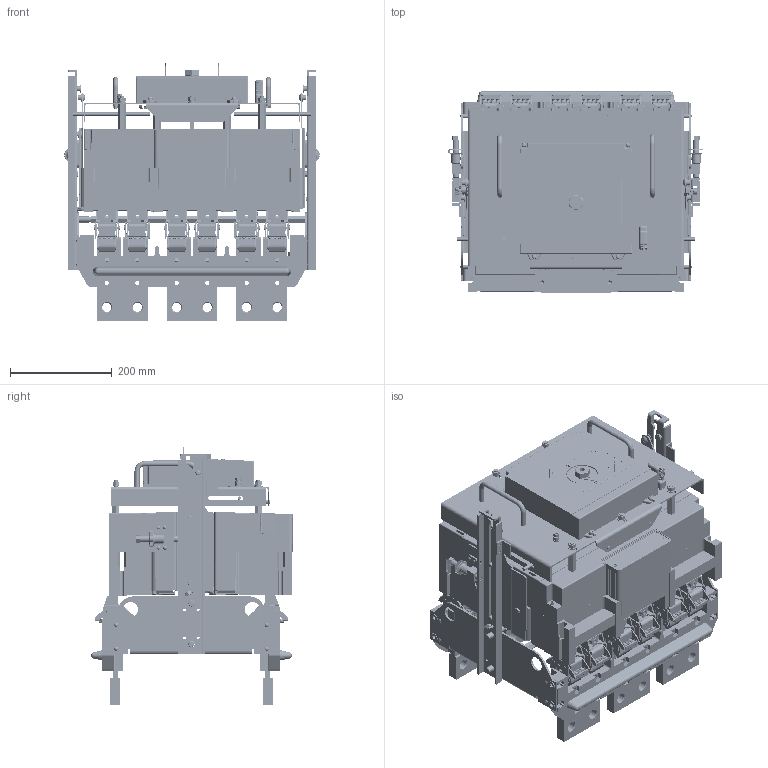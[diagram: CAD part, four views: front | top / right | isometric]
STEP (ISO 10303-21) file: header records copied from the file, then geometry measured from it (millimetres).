
FILE_DESCRIPTION (( 'STEP AP203' ), '1' );
FILE_NAME ('ÂÀ 55-43 ÂÈ ñ ÝÌÏ.STEP', '2014-12-22T10:21:06', ( 'admin' ), ( '' ), 'SwSTEP 2.0', 'SolidWorks 2007', '' );
FILE_SCHEMA (( 'CONFIG_CONTROL_DESIGN' ));
Products named in the file (1): ÂÀ 55-43 ÂÈ ñ ÝÌÏ
Bounding box: 502.99 x 396.27 x 506.75 mm (x, y, z)
Surface area: 2835962.6 mm2 (no closed solid volume)
Topology: 0 solids, 1196 shells, 7830 faces, 34932 edges, 27627 vertices
Faces by surface type: plane 3916, cylinder 2572, bspline 738, torus 259, cone 253, sphere 92
Entity records: 789331 total; most frequent: CARTESIAN_POINT 518047, DIRECTION 54427, ORIENTED_EDGE 47672, EDGE_CURVE 34902, VERTEX_POINT 27627, VECTOR 20295, LINE 20295, AXIS2_PLACEMENT_3D 17066
